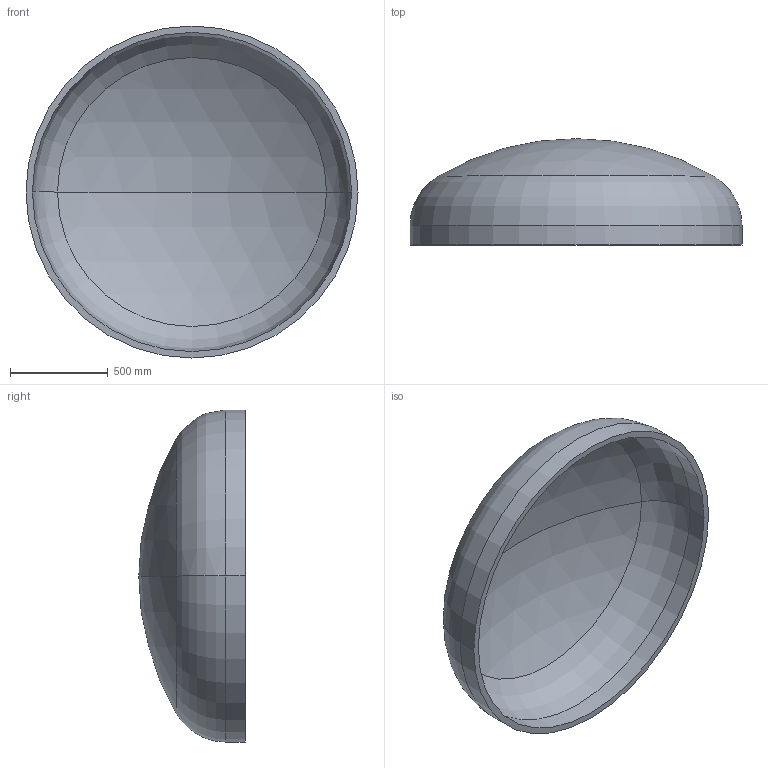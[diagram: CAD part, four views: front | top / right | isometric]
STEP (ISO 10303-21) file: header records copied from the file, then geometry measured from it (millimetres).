
FILE_DESCRIPTION (( 'STEP AP203' ), '1' );
FILE_NAME ('DIN 28013 Korbbogenform_-_Boden DIN 28013 - 1700 x 100 - I - s=33.step', '2016-07-01T11:46:27', ( '' ), ( '' ), 'SwSTEP 2.0', 'SolidWorks 2013', '' );
FILE_SCHEMA (( 'CONFIG_CONTROL_DESIGN' ));
Length unit declared in the file: millimetre
Products named in the file (1): DIN 28013 Korbbogenform_-_Boden DIN 28013 - 1700 x 100 - I - s=33
Bounding box: 1700 x 544.45 x 1700 mm (x, y, z)
Volume: 118265823.6 mm3; surface area: 7342726.3 mm2
Topology: 1 solids, 1 shells, 13 faces, 24 edges, 14 vertices
Faces by surface type: torus 4, cylinder 4, sphere 4, plane 1
Entity records: 407 total; most frequent: DIRECTION 72, CARTESIAN_POINT 52, ORIENTED_EDGE 48, AXIS2_PLACEMENT_3D 34, EDGE_CURVE 24, CIRCLE 20, EDGE_LOOP 14, VERTEX_POINT 14
